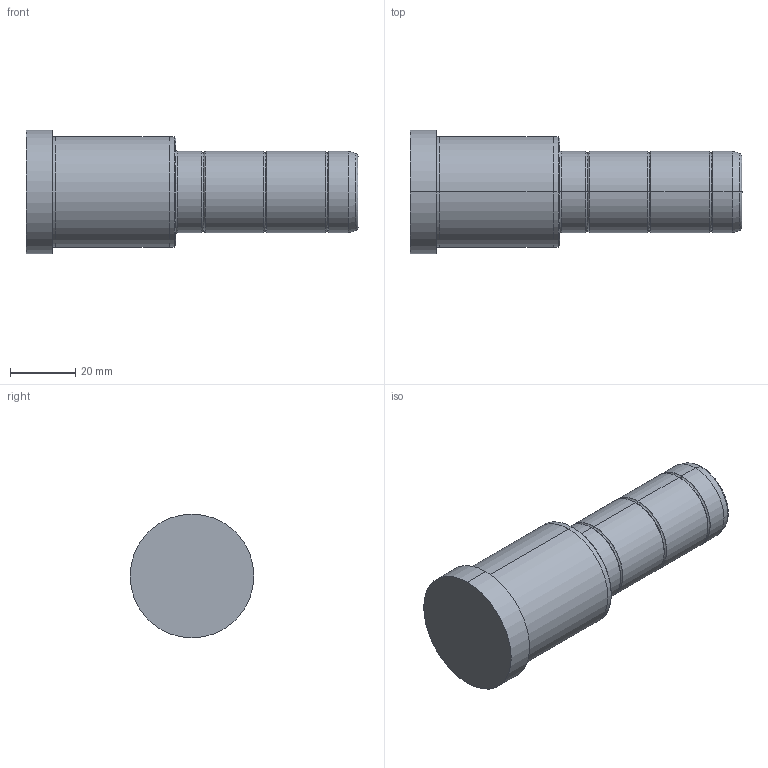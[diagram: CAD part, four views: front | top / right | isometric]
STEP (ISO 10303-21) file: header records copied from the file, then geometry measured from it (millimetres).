
FILE_DESCRIPTION( ( 'STEP AP203' ), '1' );
FILE_NAME( 'C:/Projects/D02 - 25x46x56.step', '2002-12-31T22:29:17', ( ' ' ), ( ' ' ), 'XStep 1.0', ' ', ' ' );
FILE_SCHEMA( ( 'CONFIG_CONTROL_DESIGN' ) );
Length unit declared in the file: metre
Products named in the file (1): 1
Bounding box: 102 x 38 x 38 mm (x, y, z)
Volume: 70899.4 mm3; surface area: 11684 mm2
Topology: 1 solids, 1 shells, 42 faces, 82 edges, 46 vertices
Faces by surface type: bspline 22, revolution 20
Entity records: 1325 total; most frequent: CARTESIAN_POINT 517, ORIENTED_EDGE 164, DIRECTION 134, EDGE_CURVE 82, AXIS2_PLACEMENT_3D 47, EDGE_LOOP 46, VERTEX_POINT 46, CIRCLE 46
